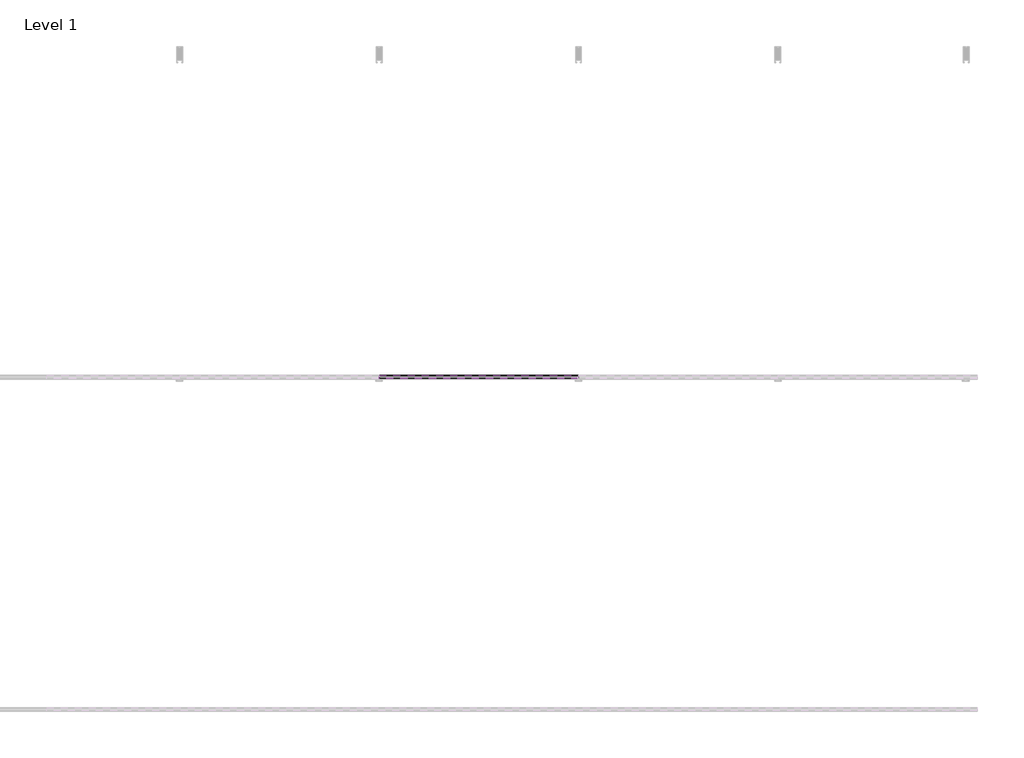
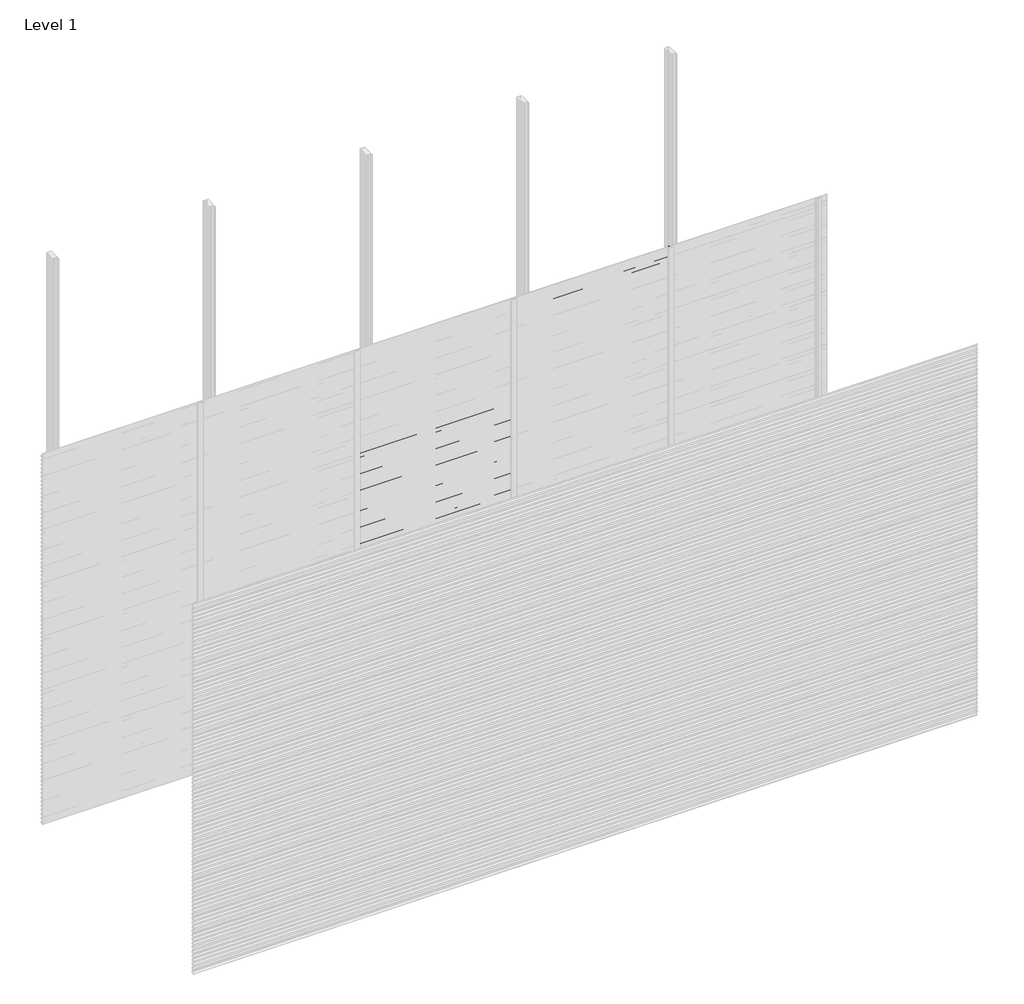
# One storey, part 45 of 77: 72 proxies.
"""IFC4 building model written with IfcOpenShell, lengths in millimetres."""

from ifc_helpers import new_model, si_unit, frame, origin, place, context, project, spatial, polyline, outline, extrude, element, save

model = new_model("IFC4")

# Units and contexts
model_context = context("Model", 3, world=origin())
ifc_project = project(units=[si_unit("LENGTHUNIT", "METRE", prefix="MILLI")], contexts=[model_context])

# Site, building, storey
site = spatial("IfcSite", under=ifc_project)
building = spatial("IfcBuilding", under=site)
storey = spatial("IfcBuildingStorey", under=building, Name="Level 1", Elevation=0.0)

# Proxies
placement = place(None, origin())
element("IfcBuildingElementProxy", 1, Name="Wall Sweeps", at=placement, inside=storey, context=model_context, shape_type="SweptSolid", body=[
    extrude(outline(polyline([(-23978.6, 2206.6359887), (-23998.0, 2217.8366691), (-23998.0, 2231.1), (-23997.0, 2231.1), (-23997.0, 2218.4191057), (-23977.6, 2207.2185105), (-23977.6, 2193.6185105), (-23978.6, 2195.1953129), (-23978.6, 2201.0032062), (-23995.9773817, 2192.9), (-23996.4, 2193.8063078), (-23978.6, 2202.1065841), (-23978.6, 2206.6359887)])), frame((2400.0, 0.0, 0.0), z_axis=(1.0, 0.0, 0.0), x_axis=(0.0, 1.0, 0.0)), (0.0, 0.0, 1.0), 1200.0),
])
element("IfcBuildingElementProxy", 2, Name="Wall Sweeps", at=placement, inside=storey, context=model_context, shape_type="SweptSolid", body=[
    extrude(outline(polyline([(-23978.6, 2173.3359887), (-23998.0, 2184.5366691), (-23998.0, 2197.8), (-23997.0, 2197.8), (-23997.0, 2185.1191057), (-23977.6, 2173.9185105), (-23977.6, 2160.3185105), (-23978.6, 2161.8953129), (-23978.6, 2167.7032062), (-23995.9773817, 2159.6), (-23996.4, 2160.5063078), (-23978.6, 2168.8065841), (-23978.6, 2173.3359887)])), frame((2400.0, 0.0, 0.0), z_axis=(1.0, 0.0, 0.0), x_axis=(0.0, 1.0, 0.0)), (0.0, 0.0, 1.0), 1200.0),
])
element("IfcBuildingElementProxy", 3, Name="Wall Sweeps", at=placement, inside=storey, context=model_context, shape_type="SweptSolid", body=[
    extrude(outline(polyline([(-23978.6, 2140.0359887), (-23998.0, 2151.2366691), (-23998.0, 2164.5), (-23997.0, 2164.5), (-23997.0, 2151.8191057), (-23977.6, 2140.6185105), (-23977.6, 2127.0185105), (-23978.6, 2128.5953129), (-23978.6, 2134.4032062), (-23995.9773817, 2126.3), (-23996.4, 2127.2063078), (-23978.6, 2135.5065841), (-23978.6, 2140.0359887)])), frame((2400.0, 0.0, 0.0), z_axis=(1.0, 0.0, 0.0), x_axis=(0.0, 1.0, 0.0)), (0.0, 0.0, 1.0), 1200.0),
])
element("IfcBuildingElementProxy", 4, Name="Wall Sweeps", at=placement, inside=storey, context=model_context, shape_type="SweptSolid", body=[
    extrude(outline(polyline([(-23978.6, 2106.7359887), (-23998.0, 2117.9366691), (-23998.0, 2131.2), (-23997.0, 2131.2), (-23997.0, 2118.5191057), (-23977.6, 2107.3185105), (-23977.6, 2093.7185105), (-23978.6, 2095.2953129), (-23978.6, 2101.1032062), (-23995.9773817, 2093.0), (-23996.4, 2093.9063078), (-23978.6, 2102.2065841), (-23978.6, 2106.7359887)])), frame((2400.0, 0.0, 0.0), z_axis=(1.0, 0.0, 0.0), x_axis=(0.0, 1.0, 0.0)), (0.0, 0.0, 1.0), 1200.0),
])
element("IfcBuildingElementProxy", 5, Name="Wall Sweeps", at=placement, inside=storey, context=model_context, shape_type="SweptSolid", body=[
    extrude(outline(polyline([(-23978.6, 2073.4359887), (-23998.0, 2084.6366691), (-23998.0, 2097.9), (-23997.0, 2097.9), (-23997.0, 2085.2191057), (-23977.6, 2074.0185105), (-23977.6, 2060.4185105), (-23978.6, 2061.9953129), (-23978.6, 2067.8032062), (-23995.9773817, 2059.7), (-23996.4, 2060.6063078), (-23978.6, 2068.9065841), (-23978.6, 2073.4359887)])), frame((2400.0, 0.0, 0.0), z_axis=(1.0, 0.0, 0.0), x_axis=(0.0, 1.0, 0.0)), (0.0, 0.0, 1.0), 1200.0),
])
element("IfcBuildingElementProxy", 6, Name="Wall Sweeps", at=placement, inside=storey, context=model_context, shape_type="SweptSolid", body=[
    extrude(outline(polyline([(-23978.6, 2040.1359887), (-23998.0, 2051.3366691), (-23998.0, 2064.6), (-23997.0, 2064.6), (-23997.0, 2051.9191057), (-23977.6, 2040.7185105), (-23977.6, 2027.1185105), (-23978.6, 2028.6953129), (-23978.6, 2034.5032062), (-23995.9773817, 2026.4), (-23996.4, 2027.3063078), (-23978.6, 2035.6065841), (-23978.6, 2040.1359887)])), frame((2400.0, 0.0, 0.0), z_axis=(1.0, 0.0, 0.0), x_axis=(0.0, 1.0, 0.0)), (0.0, 0.0, 1.0), 1200.0),
])
element("IfcBuildingElementProxy", 7, Name="Wall Sweeps", at=placement, inside=storey, context=model_context, shape_type="SweptSolid", body=[
    extrude(outline(polyline([(-23978.6, 2006.8359887), (-23998.0, 2018.0366691), (-23998.0, 2031.3), (-23997.0, 2031.3), (-23997.0, 2018.6191057), (-23977.6, 2007.4185105), (-23977.6, 1993.8185105), (-23978.6, 1995.3953129), (-23978.6, 2001.2032062), (-23995.9773817, 1993.1), (-23996.4, 1994.0063078), (-23978.6, 2002.3065841), (-23978.6, 2006.8359887)])), frame((2400.0, 0.0, 0.0), z_axis=(1.0, 0.0, 0.0), x_axis=(0.0, 1.0, 0.0)), (0.0, 0.0, 1.0), 1200.0),
])
element("IfcBuildingElementProxy", 8, Name="Wall Sweeps", at=placement, inside=storey, context=model_context, shape_type="SweptSolid", body=[
    extrude(outline(polyline([(-23978.6, 1973.5359887), (-23998.0, 1984.7366691), (-23998.0, 1998.0), (-23997.0, 1998.0), (-23997.0, 1985.3191057), (-23977.6, 1974.1185105), (-23977.6, 1960.5185105), (-23978.6, 1962.0953129), (-23978.6, 1967.9032062), (-23995.9773817, 1959.8), (-23996.4, 1960.7063078), (-23978.6, 1969.0065841), (-23978.6, 1973.5359887)])), frame((2400.0, 0.0, 0.0), z_axis=(1.0, 0.0, 0.0), x_axis=(0.0, 1.0, 0.0)), (0.0, 0.0, 1.0), 1200.0),
])
element("IfcBuildingElementProxy", 9, Name="Wall Sweeps", at=placement, inside=storey, context=model_context, shape_type="SweptSolid", body=[
    extrude(outline(polyline([(-23978.6, 1940.2359887), (-23998.0, 1951.4366691), (-23998.0, 1964.7), (-23997.0, 1964.7), (-23997.0, 1952.0191057), (-23977.6, 1940.8185105), (-23977.6, 1927.2185105), (-23978.6, 1928.7953129), (-23978.6, 1934.6032062), (-23995.9773817, 1926.5), (-23996.4, 1927.4063078), (-23978.6, 1935.7065841), (-23978.6, 1940.2359887)])), frame((2400.0, 0.0, 0.0), z_axis=(1.0, 0.0, 0.0), x_axis=(0.0, 1.0, 0.0)), (0.0, 0.0, 1.0), 1200.0),
])
element("IfcBuildingElementProxy", 10, Name="Wall Sweeps", at=placement, inside=storey, context=model_context, shape_type="SweptSolid", body=[
    extrude(outline(polyline([(-23978.6, 1906.9359887), (-23998.0, 1918.1366691), (-23998.0, 1931.4), (-23997.0, 1931.4), (-23997.0, 1918.7191057), (-23977.6, 1907.5185105), (-23977.6, 1893.9185105), (-23978.6, 1895.4953129), (-23978.6, 1901.3032062), (-23995.9773817, 1893.2), (-23996.4, 1894.1063078), (-23978.6, 1902.4065841), (-23978.6, 1906.9359887)])), frame((2400.0, 0.0, 0.0), z_axis=(1.0, 0.0, 0.0), x_axis=(0.0, 1.0, 0.0)), (0.0, 0.0, 1.0), 1200.0),
])
element("IfcBuildingElementProxy", 11, Name="Wall Sweeps", at=placement, inside=storey, context=model_context, shape_type="SweptSolid", body=[
    extrude(outline(polyline([(-23978.6, 1873.6359887), (-23998.0, 1884.8366691), (-23998.0, 1898.1), (-23997.0, 1898.1), (-23997.0, 1885.4191057), (-23977.6, 1874.2185105), (-23977.6, 1860.6185105), (-23978.6, 1862.1953129), (-23978.6, 1868.0032062), (-23995.9773817, 1859.9), (-23996.4, 1860.8063078), (-23978.6, 1869.1065841), (-23978.6, 1873.6359887)])), frame((2400.0, 0.0, 0.0), z_axis=(1.0, 0.0, 0.0), x_axis=(0.0, 1.0, 0.0)), (0.0, 0.0, 1.0), 1200.0),
])
element("IfcBuildingElementProxy", 12, Name="Wall Sweeps", at=placement, inside=storey, context=model_context, shape_type="SweptSolid", body=[
    extrude(outline(polyline([(-23978.6, 1840.3359887), (-23998.0, 1851.5366691), (-23998.0, 1864.8), (-23997.0, 1864.8), (-23997.0, 1852.1191057), (-23977.6, 1840.9185105), (-23977.6, 1827.3185105), (-23978.6, 1828.8953129), (-23978.6, 1834.7032062), (-23995.9773817, 1826.6), (-23996.4, 1827.5063078), (-23978.6, 1835.8065841), (-23978.6, 1840.3359887)])), frame((2400.0, 0.0, 0.0), z_axis=(1.0, 0.0, 0.0), x_axis=(0.0, 1.0, 0.0)), (0.0, 0.0, 1.0), 1200.0),
])
element("IfcBuildingElementProxy", 13, Name="Wall Sweeps", at=placement, inside=storey, context=model_context, shape_type="SweptSolid", body=[
    extrude(outline(polyline([(-23978.6, 1807.0359887), (-23998.0, 1818.2366691), (-23998.0, 1831.5), (-23997.0, 1831.5), (-23997.0, 1818.8191057), (-23977.6, 1807.6185105), (-23977.6, 1794.0185105), (-23978.6, 1795.5953129), (-23978.6, 1801.4032062), (-23995.9773817, 1793.3), (-23996.4, 1794.2063078), (-23978.6, 1802.5065841), (-23978.6, 1807.0359887)])), frame((2400.0, 0.0, 0.0), z_axis=(1.0, 0.0, 0.0), x_axis=(0.0, 1.0, 0.0)), (0.0, 0.0, 1.0), 1200.0),
])
element("IfcBuildingElementProxy", 14, Name="Wall Sweeps", at=placement, inside=storey, context=model_context, shape_type="SweptSolid", body=[
    extrude(outline(polyline([(-23978.6, 1773.7359887), (-23998.0, 1784.9366691), (-23998.0, 1798.2), (-23997.0, 1798.2), (-23997.0, 1785.5191057), (-23977.6, 1774.3185105), (-23977.6, 1760.7185105), (-23978.6, 1762.2953129), (-23978.6, 1768.1032062), (-23995.9773817, 1760.0), (-23996.4, 1760.9063078), (-23978.6, 1769.2065841), (-23978.6, 1773.7359887)])), frame((2400.0, 0.0, 0.0), z_axis=(1.0, 0.0, 0.0), x_axis=(0.0, 1.0, 0.0)), (0.0, 0.0, 1.0), 1200.0),
])
element("IfcBuildingElementProxy", 15, Name="Wall Sweeps", at=placement, inside=storey, context=model_context, shape_type="SweptSolid", body=[
    extrude(outline(polyline([(-23978.6, 1740.4359887), (-23998.0, 1751.6366691), (-23998.0, 1764.9), (-23997.0, 1764.9), (-23997.0, 1752.2191057), (-23977.6, 1741.0185105), (-23977.6, 1727.4185105), (-23978.6, 1728.9953129), (-23978.6, 1734.8032062), (-23995.9773817, 1726.7), (-23996.4, 1727.6063078), (-23978.6, 1735.9065841), (-23978.6, 1740.4359887)])), frame((2400.0, 0.0, 0.0), z_axis=(1.0, 0.0, 0.0), x_axis=(0.0, 1.0, 0.0)), (0.0, 0.0, 1.0), 1200.0),
])
element("IfcBuildingElementProxy", 16, Name="Wall Sweeps", at=placement, inside=storey, context=model_context, shape_type="SweptSolid", body=[
    extrude(outline(polyline([(-23978.6, 1707.1359887), (-23998.0, 1718.3366691), (-23998.0, 1731.6), (-23997.0, 1731.6), (-23997.0, 1718.9191057), (-23977.6, 1707.7185105), (-23977.6, 1694.1185105), (-23978.6, 1695.6953129), (-23978.6, 1701.5032062), (-23995.9773817, 1693.4), (-23996.4, 1694.3063078), (-23978.6, 1702.6065841), (-23978.6, 1707.1359887)])), frame((2400.0, 0.0, 0.0), z_axis=(1.0, 0.0, 0.0), x_axis=(0.0, 1.0, 0.0)), (0.0, 0.0, 1.0), 1200.0),
])
element("IfcBuildingElementProxy", 17, Name="Wall Sweeps", at=placement, inside=storey, context=model_context, shape_type="SweptSolid", body=[
    extrude(outline(polyline([(-23978.6, 1673.8359887), (-23998.0, 1685.0366691), (-23998.0, 1698.3), (-23997.0, 1698.3), (-23997.0, 1685.6191057), (-23977.6, 1674.4185105), (-23977.6, 1660.8185105), (-23978.6, 1662.3953129), (-23978.6, 1668.2032062), (-23995.9773817, 1660.1), (-23996.4, 1661.0063078), (-23978.6, 1669.3065841), (-23978.6, 1673.8359887)])), frame((2400.0, 0.0, 0.0), z_axis=(1.0, 0.0, 0.0), x_axis=(0.0, 1.0, 0.0)), (0.0, 0.0, 1.0), 1200.0),
])
element("IfcBuildingElementProxy", 18, Name="Wall Sweeps", at=placement, inside=storey, context=model_context, shape_type="SweptSolid", body=[
    extrude(outline(polyline([(-23978.6, 1640.5359887), (-23998.0, 1651.7366691), (-23998.0, 1665.0), (-23997.0, 1665.0), (-23997.0, 1652.3191057), (-23977.6, 1641.1185105), (-23977.6, 1627.5185105), (-23978.6, 1629.0953129), (-23978.6, 1634.9032062), (-23995.9773817, 1626.8), (-23996.4, 1627.7063078), (-23978.6, 1636.0065841), (-23978.6, 1640.5359887)])), frame((2400.0, 0.0, 0.0), z_axis=(1.0, 0.0, 0.0), x_axis=(0.0, 1.0, 0.0)), (0.0, 0.0, 1.0), 1200.0),
])
element("IfcBuildingElementProxy", 19, Name="Wall Sweeps", at=placement, inside=storey, context=model_context, shape_type="SweptSolid", body=[
    extrude(outline(polyline([(-23978.6, 1607.2359887), (-23998.0, 1618.4366691), (-23998.0, 1631.7), (-23997.0, 1631.7), (-23997.0, 1619.0191057), (-23977.6, 1607.8185105), (-23977.6, 1594.2185105), (-23978.6, 1595.7953129), (-23978.6, 1601.6032062), (-23995.9773817, 1593.5), (-23996.4, 1594.4063078), (-23978.6, 1602.7065841), (-23978.6, 1607.2359887)])), frame((2400.0, 0.0, 0.0), z_axis=(1.0, 0.0, 0.0), x_axis=(0.0, 1.0, 0.0)), (0.0, 0.0, 1.0), 1200.0),
])
element("IfcBuildingElementProxy", 20, Name="Wall Sweeps", at=placement, inside=storey, context=model_context, shape_type="SweptSolid", body=[
    extrude(outline(polyline([(-23978.6, 1573.9359887), (-23998.0, 1585.1366691), (-23998.0, 1598.4), (-23997.0, 1598.4), (-23997.0, 1585.7191057), (-23977.6, 1574.5185105), (-23977.6, 1560.9185105), (-23978.6, 1562.4953129), (-23978.6, 1568.3032062), (-23995.9773817, 1560.2), (-23996.4, 1561.1063078), (-23978.6, 1569.4065841), (-23978.6, 1573.9359887)])), frame((2400.0, 0.0, 0.0), z_axis=(1.0, 0.0, 0.0), x_axis=(0.0, 1.0, 0.0)), (0.0, 0.0, 1.0), 1200.0),
])
element("IfcBuildingElementProxy", 21, Name="Wall Sweeps", at=placement, inside=storey, context=model_context, shape_type="SweptSolid", body=[
    extrude(outline(polyline([(-23978.6, 1540.6359887), (-23998.0, 1551.8366691), (-23998.0, 1565.1), (-23997.0, 1565.1), (-23997.0, 1552.4191057), (-23977.6, 1541.2185105), (-23977.6, 1527.6185105), (-23978.6, 1529.1953129), (-23978.6, 1535.0032062), (-23995.9773817, 1526.9), (-23996.4, 1527.8063078), (-23978.6, 1536.1065841), (-23978.6, 1540.6359887)])), frame((2400.0, 0.0, 0.0), z_axis=(1.0, 0.0, 0.0), x_axis=(0.0, 1.0, 0.0)), (0.0, 0.0, 1.0), 1200.0),
])
element("IfcBuildingElementProxy", 22, Name="Wall Sweeps", at=placement, inside=storey, context=model_context, shape_type="SweptSolid", body=[
    extrude(outline(polyline([(-23978.6, 1507.3359887), (-23998.0, 1518.5366691), (-23998.0, 1531.8), (-23997.0, 1531.8), (-23997.0, 1519.1191057), (-23977.6, 1507.9185105), (-23977.6, 1494.3185105), (-23978.6, 1495.8953129), (-23978.6, 1501.7032062), (-23995.9773817, 1493.6), (-23996.4, 1494.5063078), (-23978.6, 1502.8065841), (-23978.6, 1507.3359887)])), frame((2400.0, 0.0, 0.0), z_axis=(1.0, 0.0, 0.0), x_axis=(0.0, 1.0, 0.0)), (0.0, 0.0, 1.0), 1200.0),
])
element("IfcBuildingElementProxy", 23, Name="Wall Sweeps", at=placement, inside=storey, context=model_context, shape_type="SweptSolid", body=[
    extrude(outline(polyline([(-23978.6, 1474.0359887), (-23998.0, 1485.2366691), (-23998.0, 1498.5), (-23997.0, 1498.5), (-23997.0, 1485.8191057), (-23977.6, 1474.6185105), (-23977.6, 1461.0185105), (-23978.6, 1462.5953129), (-23978.6, 1468.4032062), (-23995.9773817, 1460.3), (-23996.4, 1461.2063078), (-23978.6, 1469.5065841), (-23978.6, 1474.0359887)])), frame((2400.0, 0.0, 0.0), z_axis=(1.0, 0.0, 0.0), x_axis=(0.0, 1.0, 0.0)), (0.0, 0.0, 1.0), 1200.0),
])
element("IfcBuildingElementProxy", 24, Name="Wall Sweeps", at=placement, inside=storey, context=model_context, shape_type="SweptSolid", body=[
    extrude(outline(polyline([(-23978.6, 1440.7359887), (-23998.0, 1451.9366691), (-23998.0, 1465.2), (-23997.0, 1465.2), (-23997.0, 1452.5191057), (-23977.6, 1441.3185105), (-23977.6, 1427.7185105), (-23978.6, 1429.2953129), (-23978.6, 1435.1032062), (-23995.9773817, 1427.0), (-23996.4, 1427.9063078), (-23978.6, 1436.2065841), (-23978.6, 1440.7359887)])), frame((2400.0, 0.0, 0.0), z_axis=(1.0, 0.0, 0.0), x_axis=(0.0, 1.0, 0.0)), (0.0, 0.0, 1.0), 1200.0),
])
element("IfcBuildingElementProxy", 25, Name="Wall Sweeps", at=placement, inside=storey, context=model_context, shape_type="SweptSolid", body=[
    extrude(outline(polyline([(-23978.6, 1407.4359887), (-23998.0, 1418.6366691), (-23998.0, 1431.9), (-23997.0, 1431.9), (-23997.0, 1419.2191057), (-23977.6, 1408.0185105), (-23977.6, 1394.4185105), (-23978.6, 1395.9953129), (-23978.6, 1401.8032062), (-23995.9773817, 1393.7), (-23996.4, 1394.6063078), (-23978.6, 1402.9065841), (-23978.6, 1407.4359887)])), frame((2400.0, 0.0, 0.0), z_axis=(1.0, 0.0, 0.0), x_axis=(0.0, 1.0, 0.0)), (0.0, 0.0, 1.0), 1200.0),
])
element("IfcBuildingElementProxy", 26, Name="Wall Sweeps", at=placement, inside=storey, context=model_context, shape_type="SweptSolid", body=[
    extrude(outline(polyline([(-23978.6, 1374.1359887), (-23998.0, 1385.3366691), (-23998.0, 1398.6), (-23997.0, 1398.6), (-23997.0, 1385.9191057), (-23977.6, 1374.7185105), (-23977.6, 1361.1185105), (-23978.6, 1362.6953129), (-23978.6, 1368.5032062), (-23995.9773817, 1360.4), (-23996.4, 1361.3063078), (-23978.6, 1369.6065841), (-23978.6, 1374.1359887)])), frame((2400.0, 0.0, 0.0), z_axis=(1.0, 0.0, 0.0), x_axis=(0.0, 1.0, 0.0)), (0.0, 0.0, 1.0), 1200.0),
])
element("IfcBuildingElementProxy", 27, Name="Wall Sweeps", at=placement, inside=storey, context=model_context, shape_type="SweptSolid", body=[
    extrude(outline(polyline([(-23978.6, 1340.8359887), (-23998.0, 1352.0366691), (-23998.0, 1365.3), (-23997.0, 1365.3), (-23997.0, 1352.6191057), (-23977.6, 1341.4185105), (-23977.6, 1327.8185105), (-23978.6, 1329.3953129), (-23978.6, 1335.2032062), (-23995.9773817, 1327.1), (-23996.4, 1328.0063078), (-23978.6, 1336.3065841), (-23978.6, 1340.8359887)])), frame((2400.0, 0.0, 0.0), z_axis=(1.0, 0.0, 0.0), x_axis=(0.0, 1.0, 0.0)), (0.0, 0.0, 1.0), 1200.0),
])
element("IfcBuildingElementProxy", 28, Name="Wall Sweeps", at=placement, inside=storey, context=model_context, shape_type="SweptSolid", body=[
    extrude(outline(polyline([(-23978.6, 1307.5359887), (-23998.0, 1318.7366691), (-23998.0, 1332.0), (-23997.0, 1332.0), (-23997.0, 1319.3191057), (-23977.6, 1308.1185105), (-23977.6, 1294.5185105), (-23978.6, 1296.0953129), (-23978.6, 1301.9032062), (-23995.9773817, 1293.8), (-23996.4, 1294.7063078), (-23978.6, 1303.0065841), (-23978.6, 1307.5359887)])), frame((2400.0, 0.0, 0.0), z_axis=(1.0, 0.0, 0.0), x_axis=(0.0, 1.0, 0.0)), (0.0, 0.0, 1.0), 1200.0),
])
element("IfcBuildingElementProxy", 29, Name="Wall Sweeps", at=placement, inside=storey, context=model_context, shape_type="SweptSolid", body=[
    extrude(outline(polyline([(-23978.6, 1274.2359887), (-23998.0, 1285.4366691), (-23998.0, 1298.7), (-23997.0, 1298.7), (-23997.0, 1286.0191057), (-23977.6, 1274.8185105), (-23977.6, 1261.2185105), (-23978.6, 1262.7953129), (-23978.6, 1268.6032062), (-23995.9773817, 1260.5), (-23996.4, 1261.4063078), (-23978.6, 1269.7065841), (-23978.6, 1274.2359887)])), frame((2400.0, 0.0, 0.0), z_axis=(1.0, 0.0, 0.0), x_axis=(0.0, 1.0, 0.0)), (0.0, 0.0, 1.0), 1200.0),
])
element("IfcBuildingElementProxy", 30, Name="Wall Sweeps", at=placement, inside=storey, context=model_context, shape_type="SweptSolid", body=[
    extrude(outline(polyline([(-23978.6, 1240.9359887), (-23998.0, 1252.1366691), (-23998.0, 1265.4), (-23997.0, 1265.4), (-23997.0, 1252.7191057), (-23977.6, 1241.5185105), (-23977.6, 1227.9185105), (-23978.6, 1229.4953129), (-23978.6, 1235.3032062), (-23995.9773817, 1227.2), (-23996.4, 1228.1063078), (-23978.6, 1236.4065841), (-23978.6, 1240.9359887)])), frame((2400.0, 0.0, 0.0), z_axis=(1.0, 0.0, 0.0), x_axis=(0.0, 1.0, 0.0)), (0.0, 0.0, 1.0), 1200.0),
])
element("IfcBuildingElementProxy", 31, Name="Wall Sweeps", at=placement, inside=storey, context=model_context, shape_type="SweptSolid", body=[
    extrude(outline(polyline([(-23978.6, 1207.6359887), (-23998.0, 1218.8366691), (-23998.0, 1232.1), (-23997.0, 1232.1), (-23997.0, 1219.4191057), (-23977.6, 1208.2185105), (-23977.6, 1194.6185105), (-23978.6, 1196.1953129), (-23978.6, 1202.0032062), (-23995.9773817, 1193.9), (-23996.4, 1194.8063078), (-23978.6, 1203.1065841), (-23978.6, 1207.6359887)])), frame((2400.0, 0.0, 0.0), z_axis=(1.0, 0.0, 0.0), x_axis=(0.0, 1.0, 0.0)), (0.0, 0.0, 1.0), 1200.0),
])
element("IfcBuildingElementProxy", 32, Name="Wall Sweeps", at=placement, inside=storey, context=model_context, shape_type="SweptSolid", body=[
    extrude(outline(polyline([(-23978.6, 1174.3359887), (-23998.0, 1185.5366691), (-23998.0, 1198.8), (-23997.0, 1198.8), (-23997.0, 1186.1191057), (-23977.6, 1174.9185105), (-23977.6, 1161.3185105), (-23978.6, 1162.8953129), (-23978.6, 1168.7032062), (-23995.9773817, 1160.6), (-23996.4, 1161.5063078), (-23978.6, 1169.8065841), (-23978.6, 1174.3359887)])), frame((2400.0, 0.0, 0.0), z_axis=(1.0, 0.0, 0.0), x_axis=(0.0, 1.0, 0.0)), (0.0, 0.0, 1.0), 1200.0),
])
element("IfcBuildingElementProxy", 33, Name="Wall Sweeps", at=placement, inside=storey, context=model_context, shape_type="SweptSolid", body=[
    extrude(outline(polyline([(-23978.6, 1141.0359887), (-23998.0, 1152.2366691), (-23998.0, 1165.5), (-23997.0, 1165.5), (-23997.0, 1152.8191057), (-23977.6, 1141.6185105), (-23977.6, 1128.0185105), (-23978.6, 1129.5953129), (-23978.6, 1135.4032062), (-23995.9773817, 1127.3), (-23996.4, 1128.2063078), (-23978.6, 1136.5065841), (-23978.6, 1141.0359887)])), frame((2400.0, 0.0, 0.0), z_axis=(1.0, 0.0, 0.0), x_axis=(0.0, 1.0, 0.0)), (0.0, 0.0, 1.0), 1200.0),
])
element("IfcBuildingElementProxy", 34, Name="Wall Sweeps", at=placement, inside=storey, context=model_context, shape_type="SweptSolid", body=[
    extrude(outline(polyline([(-23978.6, 1107.7359887), (-23998.0, 1118.9366691), (-23998.0, 1132.2), (-23997.0, 1132.2), (-23997.0, 1119.5191057), (-23977.6, 1108.3185105), (-23977.6, 1094.7185105), (-23978.6, 1096.2953129), (-23978.6, 1102.1032062), (-23995.9773817, 1094.0), (-23996.4, 1094.9063078), (-23978.6, 1103.2065841), (-23978.6, 1107.7359887)])), frame((2400.0, 0.0, 0.0), z_axis=(1.0, 0.0, 0.0), x_axis=(0.0, 1.0, 0.0)), (0.0, 0.0, 1.0), 1200.0),
])
element("IfcBuildingElementProxy", 35, Name="Wall Sweeps", at=placement, inside=storey, context=model_context, shape_type="SweptSolid", body=[
    extrude(outline(polyline([(-23978.6, 1074.4359887), (-23998.0, 1085.6366691), (-23998.0, 1098.9), (-23997.0, 1098.9), (-23997.0, 1086.2191057), (-23977.6, 1075.0185105), (-23977.6, 1061.4185105), (-23978.6, 1062.9953129), (-23978.6, 1068.8032062), (-23995.9773817, 1060.7), (-23996.4, 1061.6063078), (-23978.6, 1069.9065841), (-23978.6, 1074.4359887)])), frame((2400.0, 0.0, 0.0), z_axis=(1.0, 0.0, 0.0), x_axis=(0.0, 1.0, 0.0)), (0.0, 0.0, 1.0), 1200.0),
])
element("IfcBuildingElementProxy", 36, Name="Wall Sweeps", at=placement, inside=storey, context=model_context, shape_type="SweptSolid", body=[
    extrude(outline(polyline([(-23978.6, 1041.1359887), (-23998.0, 1052.3366691), (-23998.0, 1065.6), (-23997.0, 1065.6), (-23997.0, 1052.9191057), (-23977.6, 1041.7185105), (-23977.6, 1028.1185105), (-23978.6, 1029.6953129), (-23978.6, 1035.5032062), (-23995.9773817, 1027.4), (-23996.4, 1028.3063078), (-23978.6, 1036.6065841), (-23978.6, 1041.1359887)])), frame((2400.0, 0.0, 0.0), z_axis=(1.0, 0.0, 0.0), x_axis=(0.0, 1.0, 0.0)), (0.0, 0.0, 1.0), 1200.0),
])
element("IfcBuildingElementProxy", 37, Name="Wall Sweeps", at=placement, inside=storey, context=model_context, shape_type="SweptSolid", body=[
    extrude(outline(polyline([(-23978.6, 1007.8359887), (-23998.0, 1019.0366691), (-23998.0, 1032.3), (-23997.0, 1032.3), (-23997.0, 1019.6191057), (-23977.6, 1008.4185105), (-23977.6, 994.8185105), (-23978.6, 996.3953129), (-23978.6, 1002.2032062), (-23995.9773817, 994.1), (-23996.4, 995.0063078), (-23978.6, 1003.3065841), (-23978.6, 1007.8359887)])), frame((2400.0, 0.0, 0.0), z_axis=(1.0, 0.0, 0.0), x_axis=(0.0, 1.0, 0.0)), (0.0, 0.0, 1.0), 1200.0),
])
element("IfcBuildingElementProxy", 38, Name="Wall Sweeps", at=placement, inside=storey, context=model_context, shape_type="SweptSolid", body=[
    extrude(outline(polyline([(-23978.6, 974.5359887), (-23998.0, 985.7366691), (-23998.0, 999.0), (-23997.0, 999.0), (-23997.0, 986.3191057), (-23977.6, 975.1185105), (-23977.6, 961.5185105), (-23978.6, 963.0953129), (-23978.6, 968.9032062), (-23995.9773817, 960.8), (-23996.4, 961.7063078), (-23978.6, 970.0065841), (-23978.6, 974.5359887)])), frame((2400.0, 0.0, 0.0), z_axis=(1.0, 0.0, 0.0), x_axis=(0.0, 1.0, 0.0)), (0.0, 0.0, 1.0), 1200.0),
])
element("IfcBuildingElementProxy", 39, Name="Wall Sweeps", at=placement, inside=storey, context=model_context, shape_type="SweptSolid", body=[
    extrude(outline(polyline([(-23978.6, 941.2359887), (-23998.0, 952.4366691), (-23998.0, 965.7), (-23997.0, 965.7), (-23997.0, 953.0191057), (-23977.6, 941.8185105), (-23977.6, 928.2185105), (-23978.6, 929.7953129), (-23978.6, 935.6032062), (-23995.9773817, 927.5), (-23996.4, 928.4063078), (-23978.6, 936.7065841), (-23978.6, 941.2359887)])), frame((2400.0, 0.0, 0.0), z_axis=(1.0, 0.0, 0.0), x_axis=(0.0, 1.0, 0.0)), (0.0, 0.0, 1.0), 1200.0),
])
element("IfcBuildingElementProxy", 40, Name="Wall Sweeps", at=placement, inside=storey, context=model_context, shape_type="SweptSolid", body=[
    extrude(outline(polyline([(-23978.6, 907.9359887), (-23998.0, 919.1366691), (-23998.0, 932.4), (-23997.0, 932.4), (-23997.0, 919.7191057), (-23977.6, 908.5185105), (-23977.6, 894.9185105), (-23978.6, 896.4953129), (-23978.6, 902.3032062), (-23995.9773817, 894.2), (-23996.4, 895.1063078), (-23978.6, 903.4065841), (-23978.6, 907.9359887)])), frame((2400.0, 0.0, 0.0), z_axis=(1.0, 0.0, 0.0), x_axis=(0.0, 1.0, 0.0)), (0.0, 0.0, 1.0), 1200.0),
])
element("IfcBuildingElementProxy", 41, Name="Wall Sweeps", at=placement, inside=storey, context=model_context, shape_type="SweptSolid", body=[
    extrude(outline(polyline([(-23978.6, 874.6359887), (-23998.0, 885.8366691), (-23998.0, 899.1), (-23997.0, 899.1), (-23997.0, 886.4191057), (-23977.6, 875.2185105), (-23977.6, 861.6185105), (-23978.6, 863.1953129), (-23978.6, 869.0032062), (-23995.9773817, 860.9), (-23996.4, 861.8063078), (-23978.6, 870.1065841), (-23978.6, 874.6359887)])), frame((2400.0, 0.0, 0.0), z_axis=(1.0, 0.0, 0.0), x_axis=(0.0, 1.0, 0.0)), (0.0, 0.0, 1.0), 1200.0),
])
element("IfcBuildingElementProxy", 42, Name="Wall Sweeps", at=placement, inside=storey, context=model_context, shape_type="SweptSolid", body=[
    extrude(outline(polyline([(-23978.6, 841.3359887), (-23998.0, 852.5366691), (-23998.0, 865.8), (-23997.0, 865.8), (-23997.0, 853.1191057), (-23977.6, 841.9185105), (-23977.6, 828.3185105), (-23978.6, 829.8953129), (-23978.6, 835.7032062), (-23995.9773817, 827.6), (-23996.4, 828.5063078), (-23978.6, 836.8065841), (-23978.6, 841.3359887)])), frame((2400.0, 0.0, 0.0), z_axis=(1.0, 0.0, 0.0), x_axis=(0.0, 1.0, 0.0)), (0.0, 0.0, 1.0), 1200.0),
])
element("IfcBuildingElementProxy", 43, Name="Wall Sweeps", at=placement, inside=storey, context=model_context, shape_type="SweptSolid", body=[
    extrude(outline(polyline([(-23978.6, 808.0359887), (-23998.0, 819.2366691), (-23998.0, 832.5), (-23997.0, 832.5), (-23997.0, 819.8191057), (-23977.6, 808.6185105), (-23977.6, 795.0185105), (-23978.6, 796.5953129), (-23978.6, 802.4032062), (-23995.9773817, 794.3), (-23996.4, 795.2063078), (-23978.6, 803.5065841), (-23978.6, 808.0359887)])), frame((2400.0, 0.0, 0.0), z_axis=(1.0, 0.0, 0.0), x_axis=(0.0, 1.0, 0.0)), (0.0, 0.0, 1.0), 1200.0),
])
element("IfcBuildingElementProxy", 44, Name="Wall Sweeps", at=placement, inside=storey, context=model_context, shape_type="SweptSolid", body=[
    extrude(outline(polyline([(-23978.6, 774.7359887), (-23998.0, 785.9366691), (-23998.0, 799.2), (-23997.0, 799.2), (-23997.0, 786.5191057), (-23977.6, 775.3185105), (-23977.6, 761.7185105), (-23978.6, 763.2953129), (-23978.6, 769.1032062), (-23995.9773817, 761.0), (-23996.4, 761.9063078), (-23978.6, 770.2065841), (-23978.6, 774.7359887)])), frame((2400.0, 0.0, 0.0), z_axis=(1.0, 0.0, 0.0), x_axis=(0.0, 1.0, 0.0)), (0.0, 0.0, 1.0), 1200.0),
])
element("IfcBuildingElementProxy", 45, Name="Wall Sweeps", at=placement, inside=storey, context=model_context, shape_type="SweptSolid", body=[
    extrude(outline(polyline([(-23978.6, 741.4359887), (-23998.0, 752.6366691), (-23998.0, 765.9), (-23997.0, 765.9), (-23997.0, 753.2191057), (-23977.6, 742.0185105), (-23977.6, 728.4185105), (-23978.6, 729.9953129), (-23978.6, 735.8032062), (-23995.9773817, 727.7), (-23996.4, 728.6063078), (-23978.6, 736.9065841), (-23978.6, 741.4359887)])), frame((2400.0, 0.0, 0.0), z_axis=(1.0, 0.0, 0.0), x_axis=(0.0, 1.0, 0.0)), (0.0, 0.0, 1.0), 1200.0),
])
element("IfcBuildingElementProxy", 46, Name="Wall Sweeps", at=placement, inside=storey, context=model_context, shape_type="SweptSolid", body=[
    extrude(outline(polyline([(-23978.6, 708.1359887), (-23998.0, 719.3366691), (-23998.0, 732.6), (-23997.0, 732.6), (-23997.0, 719.9191057), (-23977.6, 708.7185105), (-23977.6, 695.1185105), (-23978.6, 696.6953129), (-23978.6, 702.5032062), (-23995.9773817, 694.4), (-23996.4, 695.3063078), (-23978.6, 703.6065841), (-23978.6, 708.1359887)])), frame((2400.0, 0.0, 0.0), z_axis=(1.0, 0.0, 0.0), x_axis=(0.0, 1.0, 0.0)), (0.0, 0.0, 1.0), 1200.0),
])
element("IfcBuildingElementProxy", 47, Name="Wall Sweeps", at=placement, inside=storey, context=model_context, shape_type="SweptSolid", body=[
    extrude(outline(polyline([(-23978.6, 674.8359887), (-23998.0, 686.0366691), (-23998.0, 699.3), (-23997.0, 699.3), (-23997.0, 686.6191057), (-23977.6, 675.4185105), (-23977.6, 661.8185105), (-23978.6, 663.3953129), (-23978.6, 669.2032062), (-23995.9773817, 661.1), (-23996.4, 662.0063078), (-23978.6, 670.3065841), (-23978.6, 674.8359887)])), frame((2400.0, 0.0, 0.0), z_axis=(1.0, 0.0, 0.0), x_axis=(0.0, 1.0, 0.0)), (0.0, 0.0, 1.0), 1200.0),
])
element("IfcBuildingElementProxy", 48, Name="Wall Sweeps", at=placement, inside=storey, context=model_context, shape_type="SweptSolid", body=[
    extrude(outline(polyline([(-23978.6, 641.5359887), (-23998.0, 652.7366691), (-23998.0, 666.0), (-23997.0, 666.0), (-23997.0, 653.3191057), (-23977.6, 642.1185105), (-23977.6, 628.5185105), (-23978.6, 630.0953129), (-23978.6, 635.9032062), (-23995.9773817, 627.8), (-23996.4, 628.7063078), (-23978.6, 637.0065841), (-23978.6, 641.5359887)])), frame((2400.0, 0.0, 0.0), z_axis=(1.0, 0.0, 0.0), x_axis=(0.0, 1.0, 0.0)), (0.0, 0.0, 1.0), 1200.0),
])
element("IfcBuildingElementProxy", 49, Name="Wall Sweeps", at=placement, inside=storey, context=model_context, shape_type="SweptSolid", body=[
    extrude(outline(polyline([(-23978.6, 608.2359887), (-23998.0, 619.4366691), (-23998.0, 632.7), (-23997.0, 632.7), (-23997.0, 620.0191057), (-23977.6, 608.8185105), (-23977.6, 595.2185105), (-23978.6, 596.7953129), (-23978.6, 602.6032062), (-23995.9773817, 594.5), (-23996.4, 595.4063078), (-23978.6, 603.7065841), (-23978.6, 608.2359887)])), frame((2400.0, 0.0, 0.0), z_axis=(1.0, 0.0, 0.0), x_axis=(0.0, 1.0, 0.0)), (0.0, 0.0, 1.0), 1200.0),
])
element("IfcBuildingElementProxy", 50, Name="Wall Sweeps", at=placement, inside=storey, context=model_context, shape_type="SweptSolid", body=[
    extrude(outline(polyline([(-23978.6, 574.9359887), (-23998.0, 586.1366691), (-23998.0, 599.4), (-23997.0, 599.4), (-23997.0, 586.7191057), (-23977.6, 575.5185105), (-23977.6, 561.9185105), (-23978.6, 563.4953129), (-23978.6, 569.3032062), (-23995.9773817, 561.2), (-23996.4, 562.1063078), (-23978.6, 570.4065841), (-23978.6, 574.9359887)])), frame((2400.0, 0.0, 0.0), z_axis=(1.0, 0.0, 0.0), x_axis=(0.0, 1.0, 0.0)), (0.0, 0.0, 1.0), 1200.0),
])
element("IfcBuildingElementProxy", 51, Name="Wall Sweeps", at=placement, inside=storey, context=model_context, shape_type="SweptSolid", body=[
    extrude(outline(polyline([(-23978.6, 541.6359887), (-23998.0, 552.8366691), (-23998.0, 566.1), (-23997.0, 566.1), (-23997.0, 553.4191057), (-23977.6, 542.2185105), (-23977.6, 528.6185105), (-23978.6, 530.1953129), (-23978.6, 536.0032062), (-23995.9773817, 527.9), (-23996.4, 528.8063078), (-23978.6, 537.1065841), (-23978.6, 541.6359887)])), frame((2400.0, 0.0, 0.0), z_axis=(1.0, 0.0, 0.0), x_axis=(0.0, 1.0, 0.0)), (0.0, 0.0, 1.0), 1200.0),
])
element("IfcBuildingElementProxy", 52, Name="Wall Sweeps", at=placement, inside=storey, context=model_context, shape_type="SweptSolid", body=[
    extrude(outline(polyline([(-23978.6, 508.3359887), (-23998.0, 519.5366691), (-23998.0, 532.8), (-23997.0, 532.8), (-23997.0, 520.1191057), (-23977.6, 508.9185105), (-23977.6, 495.3185105), (-23978.6, 496.8953129), (-23978.6, 502.7032062), (-23995.9773817, 494.6), (-23996.4, 495.5063078), (-23978.6, 503.8065841), (-23978.6, 508.3359887)])), frame((2400.0, 0.0, 0.0), z_axis=(1.0, 0.0, 0.0), x_axis=(0.0, 1.0, 0.0)), (0.0, 0.0, 1.0), 1200.0),
])
element("IfcBuildingElementProxy", 53, Name="Wall Sweeps", at=placement, inside=storey, context=model_context, shape_type="SweptSolid", body=[
    extrude(outline(polyline([(-23978.6, 475.0359887), (-23998.0, 486.2366691), (-23998.0, 499.5), (-23997.0, 499.5), (-23997.0, 486.8191057), (-23977.6, 475.6185105), (-23977.6, 462.0185105), (-23978.6, 463.5953129), (-23978.6, 469.4032062), (-23995.9773817, 461.3), (-23996.4, 462.2063078), (-23978.6, 470.5065841), (-23978.6, 475.0359887)])), frame((2400.0, 0.0, 0.0), z_axis=(1.0, 0.0, 0.0), x_axis=(0.0, 1.0, 0.0)), (0.0, 0.0, 1.0), 1200.0),
])
element("IfcBuildingElementProxy", 54, Name="Wall Sweeps", at=placement, inside=storey, context=model_context, shape_type="SweptSolid", body=[
    extrude(outline(polyline([(-23978.6, 441.7359887), (-23998.0, 452.9366691), (-23998.0, 466.2), (-23997.0, 466.2), (-23997.0, 453.5191057), (-23977.6, 442.3185105), (-23977.6, 428.7185105), (-23978.6, 430.2953129), (-23978.6, 436.1032062), (-23995.9773817, 428.0), (-23996.4, 428.9063078), (-23978.6, 437.2065841), (-23978.6, 441.7359887)])), frame((2400.0, 0.0, 0.0), z_axis=(1.0, 0.0, 0.0), x_axis=(0.0, 1.0, 0.0)), (0.0, 0.0, 1.0), 1200.0),
])
element("IfcBuildingElementProxy", 55, Name="Wall Sweeps", at=placement, inside=storey, context=model_context, shape_type="SweptSolid", body=[
    extrude(outline(polyline([(-23978.6, 408.4359887), (-23998.0, 419.6366691), (-23998.0, 432.9), (-23997.0, 432.9), (-23997.0, 420.2191057), (-23977.6, 409.0185105), (-23977.6, 395.4185105), (-23978.6, 396.9953129), (-23978.6, 402.8032062), (-23995.9773817, 394.7), (-23996.4, 395.6063078), (-23978.6, 403.9065841), (-23978.6, 408.4359887)])), frame((2400.0, 0.0, 0.0), z_axis=(1.0, 0.0, 0.0), x_axis=(0.0, 1.0, 0.0)), (0.0, 0.0, 1.0), 1200.0),
])
element("IfcBuildingElementProxy", 56, Name="Wall Sweeps", at=placement, inside=storey, context=model_context, shape_type="SweptSolid", body=[
    extrude(outline(polyline([(-23978.6, 375.1359887), (-23998.0, 386.3366691), (-23998.0, 399.6), (-23997.0, 399.6), (-23997.0, 386.9191057), (-23977.6, 375.7185105), (-23977.6, 362.1185105), (-23978.6, 363.6953129), (-23978.6, 369.5032062), (-23995.9773817, 361.4), (-23996.4, 362.3063078), (-23978.6, 370.6065841), (-23978.6, 375.1359887)])), frame((2400.0, 0.0, 0.0), z_axis=(1.0, 0.0, 0.0), x_axis=(0.0, 1.0, 0.0)), (0.0, 0.0, 1.0), 1200.0),
])
element("IfcBuildingElementProxy", 57, Name="Wall Sweeps", at=placement, inside=storey, context=model_context, shape_type="SweptSolid", body=[
    extrude(outline(polyline([(-23978.6, 341.8359887), (-23998.0, 353.0366691), (-23998.0, 366.3), (-23997.0, 366.3), (-23997.0, 353.6191057), (-23977.6, 342.4185105), (-23977.6, 328.8185105), (-23978.6, 330.3953129), (-23978.6, 336.2032062), (-23995.9773817, 328.1), (-23996.4, 329.0063078), (-23978.6, 337.3065841), (-23978.6, 341.8359887)])), frame((2400.0, 0.0, 0.0), z_axis=(1.0, 0.0, 0.0), x_axis=(0.0, 1.0, 0.0)), (0.0, 0.0, 1.0), 1200.0),
])
element("IfcBuildingElementProxy", 58, Name="Wall Sweeps", at=placement, inside=storey, context=model_context, shape_type="SweptSolid", body=[
    extrude(outline(polyline([(-23978.6, 308.5359887), (-23998.0, 319.7366691), (-23998.0, 333.0), (-23997.0, 333.0), (-23997.0, 320.3191057), (-23977.6, 309.1185105), (-23977.6, 295.5185105), (-23978.6, 297.0953129), (-23978.6, 302.9032062), (-23995.9773817, 294.8), (-23996.4, 295.7063078), (-23978.6, 304.0065841), (-23978.6, 308.5359887)])), frame((2400.0, 0.0, 0.0), z_axis=(1.0, 0.0, 0.0), x_axis=(0.0, 1.0, 0.0)), (0.0, 0.0, 1.0), 1200.0),
])
element("IfcBuildingElementProxy", 59, Name="Wall Sweeps", at=placement, inside=storey, context=model_context, shape_type="SweptSolid", body=[
    extrude(outline(polyline([(-23978.6, 275.2359887), (-23998.0, 286.4366691), (-23998.0, 299.7), (-23997.0, 299.7), (-23997.0, 287.0191057), (-23977.6, 275.8185105), (-23977.6, 262.2185105), (-23978.6, 263.7953129), (-23978.6, 269.6032062), (-23995.9773817, 261.5), (-23996.4, 262.4063078), (-23978.6, 270.7065841), (-23978.6, 275.2359887)])), frame((2400.0, 0.0, 0.0), z_axis=(1.0, 0.0, 0.0), x_axis=(0.0, 1.0, 0.0)), (0.0, 0.0, 1.0), 1200.0),
])
element("IfcBuildingElementProxy", 60, Name="Wall Sweeps", at=placement, inside=storey, context=model_context, shape_type="SweptSolid", body=[
    extrude(outline(polyline([(-23978.6, 241.9359887), (-23998.0, 253.1366691), (-23998.0, 266.4), (-23997.0, 266.4), (-23997.0, 253.7191057), (-23977.6, 242.5185105), (-23977.6, 228.9185105), (-23978.6, 230.4953129), (-23978.6, 236.3032062), (-23995.9773817, 228.2), (-23996.4, 229.1063078), (-23978.6, 237.4065841), (-23978.6, 241.9359887)])), frame((2400.0, 0.0, 0.0), z_axis=(1.0, 0.0, 0.0), x_axis=(0.0, 1.0, 0.0)), (0.0, 0.0, 1.0), 1200.0),
])
element("IfcBuildingElementProxy", 61, Name="Wall Sweeps", at=placement, inside=storey, context=model_context, shape_type="SweptSolid", body=[
    extrude(outline(polyline([(-23978.6, 208.6359887), (-23998.0, 219.8366691), (-23998.0, 233.1), (-23997.0, 233.1), (-23997.0, 220.4191057), (-23977.6, 209.2185105), (-23977.6, 195.6185105), (-23978.6, 197.1953129), (-23978.6, 203.0032062), (-23995.9773817, 194.9), (-23996.4, 195.8063078), (-23978.6, 204.1065841), (-23978.6, 208.6359887)])), frame((2400.0, 0.0, 0.0), z_axis=(1.0, 0.0, 0.0), x_axis=(0.0, 1.0, 0.0)), (0.0, 0.0, 1.0), 1200.0),
])
element("IfcBuildingElementProxy", 62, Name="Wall Sweeps", at=placement, inside=storey, context=model_context, shape_type="SweptSolid", body=[
    extrude(outline(polyline([(-23978.6, 175.3359887), (-23998.0, 186.5366691), (-23998.0, 199.8), (-23997.0, 199.8), (-23997.0, 187.1191057), (-23977.6, 175.9185105), (-23977.6, 162.3185105), (-23978.6, 163.8953129), (-23978.6, 169.7032062), (-23995.9773817, 161.6), (-23996.4, 162.5063078), (-23978.6, 170.8065841), (-23978.6, 175.3359887)])), frame((2400.0, 0.0, 0.0), z_axis=(1.0, 0.0, 0.0), x_axis=(0.0, 1.0, 0.0)), (0.0, 0.0, 1.0), 1200.0),
])
element("IfcBuildingElementProxy", 63, Name="Wall Sweeps", at=placement, inside=storey, context=model_context, shape_type="SweptSolid", body=[
    extrude(outline(polyline([(-23978.6, 142.0359887), (-23998.0, 153.2366691), (-23998.0, 166.5), (-23997.0, 166.5), (-23997.0, 153.8191057), (-23977.6, 142.6185105), (-23977.6, 129.0185105), (-23978.6, 130.5953129), (-23978.6, 136.4032062), (-23995.9773817, 128.3), (-23996.4, 129.2063078), (-23978.6, 137.5065841), (-23978.6, 142.0359887)])), frame((2400.0, 0.0, 0.0), z_axis=(1.0, 0.0, 0.0), x_axis=(0.0, 1.0, 0.0)), (0.0, 0.0, 1.0), 1200.0),
])
element("IfcBuildingElementProxy", 64, Name="Wall Sweeps", at=placement, inside=storey, context=model_context, shape_type="SweptSolid", body=[
    extrude(outline(polyline([(-23978.6, 108.7359887), (-23998.0, 119.9366691), (-23998.0, 133.2), (-23997.0, 133.2), (-23997.0, 120.5191057), (-23977.6, 109.3185105), (-23977.6, 95.7185105), (-23978.6, 97.2953129), (-23978.6, 103.1032062), (-23995.9773817, 95.0), (-23996.4, 95.9063078), (-23978.6, 104.2065841), (-23978.6, 108.7359887)])), frame((2400.0, 0.0, 0.0), z_axis=(1.0, 0.0, 0.0), x_axis=(0.0, 1.0, 0.0)), (0.0, 0.0, 1.0), 1200.0),
])
element("IfcBuildingElementProxy", 65, Name="Wall Sweeps", at=placement, inside=storey, context=model_context, shape_type="SweptSolid", body=[
    extrude(outline(polyline([(-23978.6, 75.4359887), (-23998.0, 86.6366691), (-23998.0, 99.9), (-23997.0, 99.9), (-23997.0, 87.2191057), (-23977.6, 76.0185105), (-23977.6, 62.4185105), (-23978.6, 63.9953129), (-23978.6, 69.8032062), (-23995.9773817, 61.7), (-23996.4, 62.6063078), (-23978.6, 70.9065841), (-23978.6, 75.4359887)])), frame((2400.0, 0.0, 0.0), z_axis=(1.0, 0.0, 0.0), x_axis=(0.0, 1.0, 0.0)), (0.0, 0.0, 1.0), 1200.0),
])
element("IfcBuildingElementProxy", 66, Name="Wall Sweeps", at=placement, inside=storey, context=model_context, shape_type="SweptSolid", body=[
    extrude(outline(polyline([(-23978.6, 42.1359887), (-23998.0, 53.3366691), (-23998.0, 66.6), (-23997.0, 66.6), (-23997.0, 53.9191057), (-23977.6, 42.7185105), (-23977.6, 29.1185105), (-23978.6, 30.6953129), (-23978.6, 36.5032062), (-23995.9773817, 28.4), (-23996.4, 29.3063078), (-23978.6, 37.6065841), (-23978.6, 42.1359887)])), frame((2400.0, 0.0, 0.0), z_axis=(1.0, 0.0, 0.0), x_axis=(0.0, 1.0, 0.0)), (0.0, 0.0, 1.0), 1200.0),
])
element("IfcBuildingElementProxy", 67, Name="Wall Sweeps", at=placement, inside=storey, context=model_context, shape_type="SweptSolid", body=[
    extrude(outline(polyline([(-23978.6, 8.8359887), (-23998.0, 20.0366691), (-23998.0, 33.3), (-23997.0, 33.3), (-23997.0, 20.6191057), (-23977.6, 9.4185105), (-23977.6, -4.1814895), (-23978.6, -2.6046871), (-23978.6, 3.2032062), (-23995.9773817, -4.9), (-23996.4, -3.9936922), (-23978.6, 4.3065841), (-23978.6, 8.8359887)])), frame((2400.0, 0.0, 0.0), z_axis=(1.0, 0.0, 0.0), x_axis=(0.0, 1.0, 0.0)), (0.0, 0.0, 1.0), 1200.0),
])
element("IfcBuildingElementProxy", 68, Name="Wall Sweeps", at=placement, inside=storey, context=model_context, shape_type="SweptSolid", body=[
    extrude(outline(polyline([(-23978.6, 2972.5359887), (-23998.0, 2983.7366691), (-23998.0, 2997.0), (-23997.0, 2997.0), (-23997.0, 2984.3191057), (-23977.6, 2973.1185105), (-23977.6, 2959.5185105), (-23978.6, 2961.0953129), (-23978.6, 2966.9032062), (-23995.9773817, 2958.8), (-23996.4, 2959.7063078), (-23978.6, 2968.0065841), (-23978.6, 2972.5359887)])), frame((3600.0, 0.0, 0.0), z_axis=(1.0, 0.0, 0.0), x_axis=(0.0, 1.0, 0.0)), (0.0, 0.0, 1.0), 1200.0),
])
element("IfcBuildingElementProxy", 69, Name="Wall Sweeps", at=placement, inside=storey, context=model_context, shape_type="SweptSolid", body=[
    extrude(outline(polyline([(-23978.6, 2939.2359887), (-23998.0, 2950.4366691), (-23998.0, 2963.7), (-23997.0, 2963.7), (-23997.0, 2951.0191057), (-23977.6, 2939.8185105), (-23977.6, 2926.2185105), (-23978.6, 2927.7953129), (-23978.6, 2933.6032062), (-23995.9773817, 2925.5), (-23996.4, 2926.4063078), (-23978.6, 2934.7065841), (-23978.6, 2939.2359887)])), frame((3600.0, 0.0, 0.0), z_axis=(1.0, 0.0, 0.0), x_axis=(0.0, 1.0, 0.0)), (0.0, 0.0, 1.0), 1200.0),
])
element("IfcBuildingElementProxy", 70, Name="Wall Sweeps", at=placement, inside=storey, context=model_context, shape_type="SweptSolid", body=[
    extrude(outline(polyline([(-23978.6, 2905.9359887), (-23998.0, 2917.1366691), (-23998.0, 2930.4), (-23997.0, 2930.4), (-23997.0, 2917.7191057), (-23977.6, 2906.5185105), (-23977.6, 2892.9185105), (-23978.6, 2894.4953129), (-23978.6, 2900.3032062), (-23995.9773817, 2892.2), (-23996.4, 2893.1063078), (-23978.6, 2901.4065841), (-23978.6, 2905.9359887)])), frame((3600.0, 0.0, 0.0), z_axis=(1.0, 0.0, 0.0), x_axis=(0.0, 1.0, 0.0)), (0.0, 0.0, 1.0), 1200.0),
])
element("IfcBuildingElementProxy", 71, Name="Wall Sweeps", at=placement, inside=storey, context=model_context, shape_type="SweptSolid", body=[
    extrude(outline(polyline([(-23978.6, 2872.6359887), (-23998.0, 2883.8366691), (-23998.0, 2897.1), (-23997.0, 2897.1), (-23997.0, 2884.4191057), (-23977.6, 2873.2185105), (-23977.6, 2859.6185105), (-23978.6, 2861.1953129), (-23978.6, 2867.0032062), (-23995.9773817, 2858.9), (-23996.4, 2859.8063078), (-23978.6, 2868.1065841), (-23978.6, 2872.6359887)])), frame((3600.0, 0.0, 0.0), z_axis=(1.0, 0.0, 0.0), x_axis=(0.0, 1.0, 0.0)), (0.0, 0.0, 1.0), 1200.0),
])
element("IfcBuildingElementProxy", 72, Name="Wall Sweeps", at=placement, inside=storey, context=model_context, shape_type="SweptSolid", body=[
    extrude(outline(polyline([(-23978.6, 2839.3359887), (-23998.0, 2850.5366691), (-23998.0, 2863.8), (-23997.0, 2863.8), (-23997.0, 2851.1191057), (-23977.6, 2839.9185105), (-23977.6, 2826.3185105), (-23978.6, 2827.8953129), (-23978.6, 2833.7032062), (-23995.9773817, 2825.6), (-23996.4, 2826.5063078), (-23978.6, 2834.8065841), (-23978.6, 2839.3359887)])), frame((3600.0, 0.0, 0.0), z_axis=(1.0, 0.0, 0.0), x_axis=(0.0, 1.0, 0.0)), (0.0, 0.0, 1.0), 1200.0),
])

save(model, "model.ifc")
